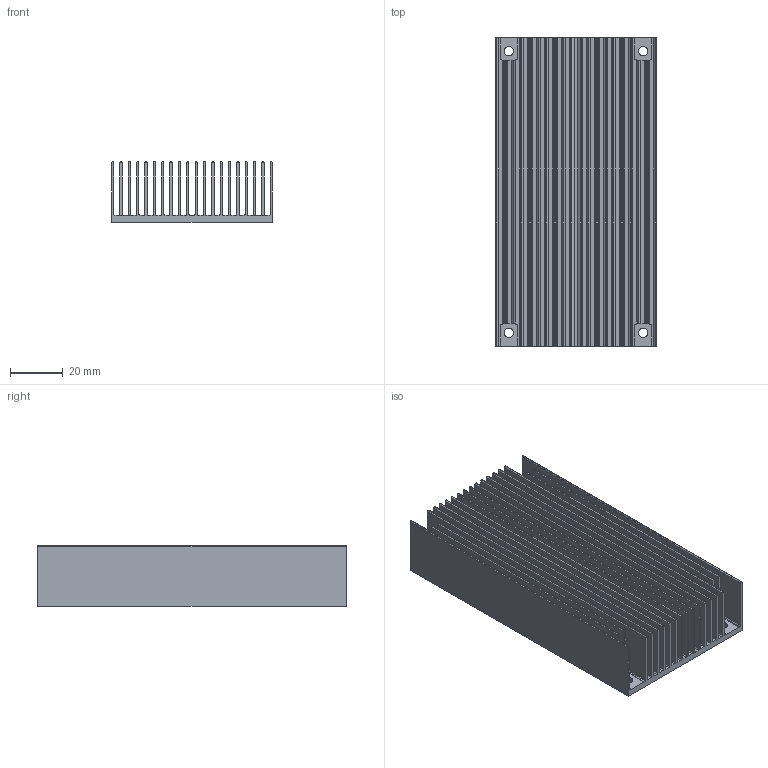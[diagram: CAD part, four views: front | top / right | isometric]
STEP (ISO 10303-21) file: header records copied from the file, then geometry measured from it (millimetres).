
FILE_DESCRIPTION (( 'STEP AP214' ), '1' );
FILE_NAME ('HS1594E.STEP', '2023-02-15T16:35:46', ( '' ), ( '' ), 'SwSTEP 2.0', 'SolidWorks 2020', '' );
FILE_SCHEMA (( 'AUTOMOTIVE_DESIGN' ));
Length unit declared in the file: inch
Products named in the file (1): HS1594E
Bounding box: 60.96 x 116.84 x 22.86 mm (x, y, z)
Volume: 58878.2 mm3; surface area: 106705.4 mm2
Topology: 1 solids, 1 shells, 212 faces, 618 edges, 412 vertices
Faces by surface type: cylinder 106, plane 106
Entity records: 7134 total; most frequent: CARTESIAN_POINT 1267, DIRECTION 1244, ORIENTED_EDGE 1236, EDGE_CURVE 618, AXIS2_PLACEMENT_3D 421, VERTEX_POINT 412, LINE 402, VECTOR 402
